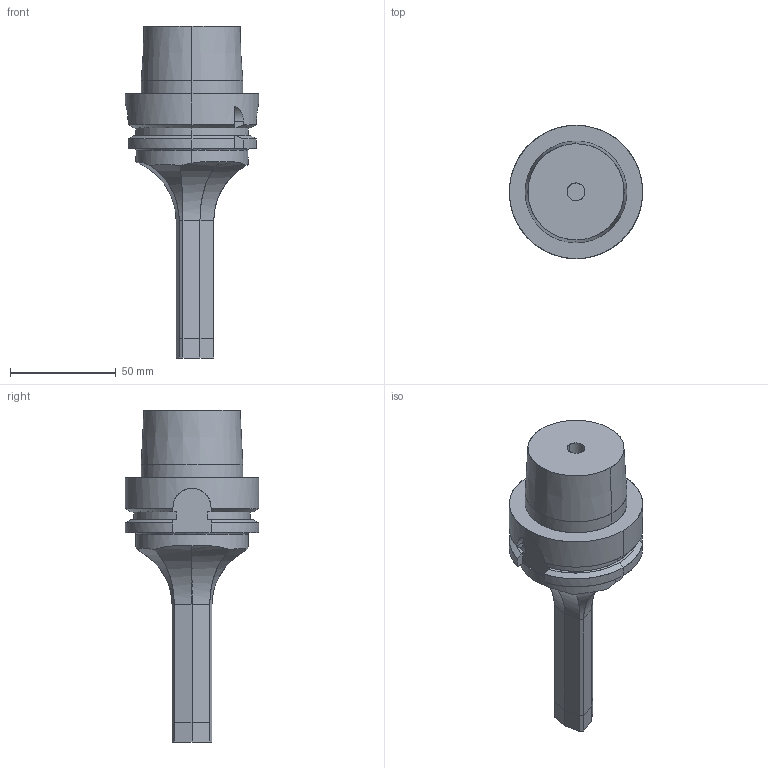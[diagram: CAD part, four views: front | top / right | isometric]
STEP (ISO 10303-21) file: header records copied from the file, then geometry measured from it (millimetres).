
FILE_DESCRIPTION(('OPEN MIND Model'),'2;1');
FILE_NAME('OPEN MIND Shape Model','2021-08-11T14:42:53',('Author'),( 'hyperCAD-S '),'hyperCAD-S STEP processor 6.6','hyperCAD-S 1.0' ,'Unknown');
FILE_SCHEMA(('AUTOMOTIVE_DESIGN { 1 2 10303 214 -1 1 5 4 }'));
Length unit declared in the file: millimetre
Products named in the file (84): Product 1; Product 1.1; Product 1.2; Product 1.3; Product 1.4; Product 1.5; Product 1.6; Product 1.7; Product 1.8; Product 1.9; Product 1.10; Product 1.11; Product 1.12; Product 1.13; Product 1.14; Product 1.15; Product 1.16; Product 1.17; Product 1.18; Product 1.19; Product 1.20; Product 1.21; Product 1.22; Product 1.23; Product 1.24; Product 1.25; Product 1.26; Product 1.27; Product 1.28; Product 1.29; Product 1.30; Product 1.31; Product 1.32; Product 1.33; Product 1.34; Product 1.35; Product 1.36; Product 1.37; Product 1.38; Product 1.39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
Assembly tree (83 placements, depth 2):
  Product 1
    Product 1.1
    Product 1.2
    Product 1.3
    Product 1.4
    Product 1.5
    Product 1.6
    Product 1.7
    Product 1.8
    Product 1.9
    Product 1.10
    Product 1.11
    Product 1.12
    Product 1.13
    Product 1.14
    Product 1.15
    Product 1.16
    Product 1.17
    Product 1.18
    Product 1.19
    Product 1.20
    Product 1.21
    Product 1.22
    Product 1.23
    Product 1.24
    Product 1.25
    Product 1.26
    Product 1.27
    Product 1.28
    Product 1.29
    Product 1.30
    Product 1.31
    Product 1.32
    Product 1.33
    Product 1.34
    Product 1.35
    Product 1.36
    Product 1.37
    Product 1.38
    Product 1.39
    Product 1.40
    Product 1.41
    Product 1.42
    Product 1.43
    Product 1.44
    Product 1.45
    Product 1.46
    Product 1.47
    Product 1.48
    Product 1.49
    Product 1.50
    Product 1.51
    Product 1.52
    Product 1.53
    Product 1.54
    Product 1.55
    Product 1.56
    Product 1.57
    Product 1.58
    Product 1.59
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Bounding box: 63 x 63 x 156.86 mm (x, y, z)
Volume: 1989.4 mm3; surface area: 24775 mm2
Topology: 1 solids, 82 shells, 92 faces, 448 edges, 440 vertices
Faces by surface type: plane 36, cylinder 31, revolution 16, extrusion 9
Entity records: 12221 total; most frequent: CARTESIAN_POINT 6099, B_SPLINE_CURVE_WITH_KNOTS 807, ORIENTED_EDGE 475, PCURVE 475, DEFINITIONAL_REPRESENTATION 475, EDGE_CURVE 448, SURFACE_CURVE 448, VERTEX_POINT 439
